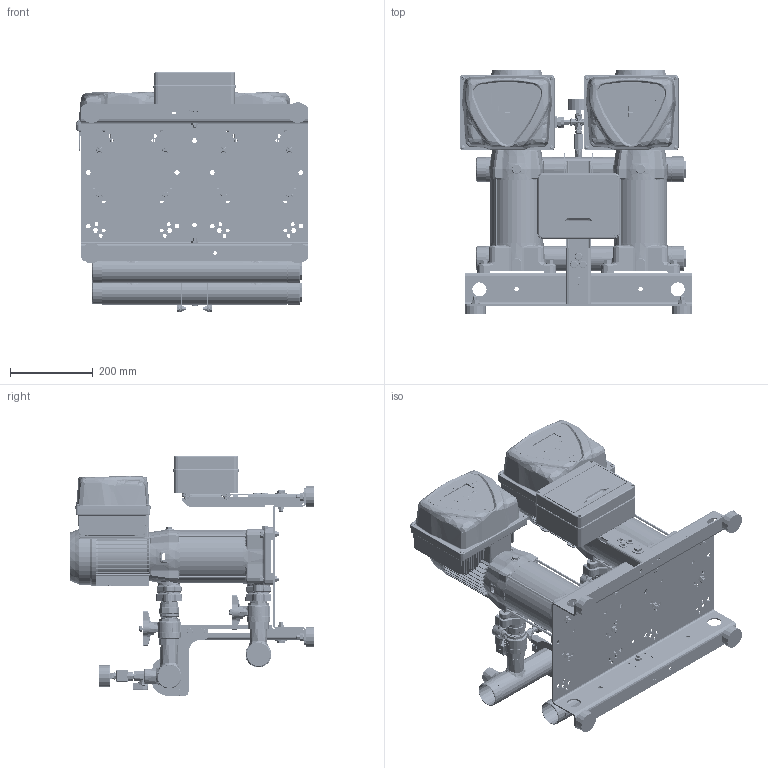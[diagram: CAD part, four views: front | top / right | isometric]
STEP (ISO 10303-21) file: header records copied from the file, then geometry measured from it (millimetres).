
FILE_DESCRIPTION((''),'2;1');
FILE_NAME('2GPE_CVM_A12_ESPM_REV4_ASM','2024-12-03T11:43:26',('Utente'),('"Ebara Pumps Europe S.p.A"'),'CREO PARAMETRIC BY PTC INC, 2022124','CREO PARAMETRIC BY PTC INC, 2022124','');
FILE_SCHEMA(('AUTOMOTIVE_DESIGN { 1 0 10303 214 1 1 1 1 }'));
Products named in the file (45): 62508_275562936; CALOTTA_F_A304_DN50_369800820; VAL_INT_MF_OTN_CIM301-14_DN32; VAL_INT_M-F_OTN_CIM301_DN32_ASM; EP_CVM_A-12_R; EP_CVM_A-12_R_ASM; ADATTATORE_E-SPD_MEC71; E-SPD_ADATTATORE_MEC71_ASM; BACK_E-SPD_PLUS_2200-4000; COVER_E-SPD_PLUS_2200-4000; COM_E-SPDM_MEC71_VERT_ASM; VAL-NR-MF-OTN-CIM32-DN32; VALV_NR_MF_CIM32_DN32_ASM; RONDEL-P_FE_ZN_UNI6592_M10; DADO_AUTOAGG_M10_ESAG; VITI_TE_ISO4017_M10_L40; 62513_275562944; VAL_INT_MF_OTN_CIM012_DN8; NIPPLO_OTG_8_380000861; CROCE_OTG_DN8_380000881; TRASD_16BAR_460500024; MAN_POS_D50_10BAR_361600003; BASE_2GP_I300-B300_DNRV; MONTANTE_H300_271472898; PIEDINO_CIL_369650010; DADI_NORM_ISO4032_FE_ZN_M10; RONDEL-P_ZN_UNI6593_M10X30X2-5; VITI_TE_ISO4017_M10_L45; TRAVERSO_MONT_L200_271472882; RONDEL-P_FE_ZN_UNI6593_M6X18X2; RONDEL-P_FE_ZN_UNI6592_M6; VITI_TE_ISO4017_M6_L20; DADI_NORM_ISO4032_FE_ZN_M6; DNRV_2P_I300-B300_H300-Q195X150_ASM; QUADRO_PROT_2P_M_ELENTEK; PG_PVC_D10-5_380000891; TAPPO-SALVAFIL_D31; 271473006; 271472998; 72578_271473004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
Assembly tree (134 placements, depth 3):
  2GPE_CVM_A12_ESPM_REV4_ASM
    62508_275562936
    CALOTTA_F_A304_DN50_369800820  x2
    VAL_INT_M-F_OTN_CIM301_DN32_ASM  x4
      VAL_INT_MF_OTN_CIM301-14_DN32
    EP_CVM_A-12_R_ASM  x2
      EP_CVM_A-12_R
    E-SPD_ADATTATORE_MEC71_ASM  x2
      ADATTATORE_E-SPD_MEC71
    COM_E-SPDM_MEC71_VERT_ASM  x2
      BACK_E-SPD_PLUS_2200-4000
      COVER_E-SPD_PLUS_2200-4000
    VALV_NR_MF_CIM32_DN32_ASM  x2
      VAL-NR-MF-OTN-CIM32-DN32
    RONDEL-P_FE_ZN_UNI6592_M10  x8
    DADO_AUTOAGG_M10_ESAG  x9
    VITI_TE_ISO4017_M10_L40  x8
    62513_275562944
    VAL_INT_MF_OTN_CIM012_DN8
    NIPPLO_OTG_8_380000861
    CROCE_OTG_DN8_380000881
    TRASD_16BAR_460500024  x2
    MAN_POS_D50_10BAR_361600003
    DNRV_2P_I300-B300_H300-Q195X150_ASM
      BASE_2GP_I300-B300_DNRV
      MONTANTE_H300_271472898
      PIEDINO_CIL_369650010  x4
      RONDEL-P_FE_ZN_UNI6592_M10  x4
      DADI_NORM_ISO4032_FE_ZN_M10  x4
      RONDEL-P_ZN_UNI6593_M10X30X2-5
      VITI_TE_ISO4017_M10_L45
      TRAVERSO_MONT_L200_271472882  x2
      RONDEL-P_FE_ZN_UNI6593_M6X18X2  x8
      RONDEL-P_FE_ZN_UNI6592_M6  x4
      VITI_TE_ISO4017_M6_L20  x4
      DADI_NORM_ISO4032_FE_ZN_M6  x4
      DADO_AUTOAGG_M10_ESAG
    QUADRO_PROT_2P_M_ELENTEK
    PG_PVC_D10-5_380000891  x3
    TAPPO-SALVAFIL_D31  x2
    271473006
    271472998  x2
    72578_271473004  x2
    RONDEL-P_ZN_UNI6593_M10X30X2-5
    VITI_TE_ISO4017_M10_L45
    RONDEL-P_FE_ZN_UNI6592_M8  x12
    VITI_TE_ISO4017_M8_L18  x8
    DADI_NORM_ISO4032_FE_ZN_M8  x4
    DADO_AUTOAGG_M8_ESAG  x4
Bounding box: 562.5 x 591.6 x 581.25 mm (x, y, z)
Volume: 4088242.3 mm3; surface area: 4510485.6 mm2
Topology: 296 solids, 1277 shells, 32658 faces, 85173 edges, 52542 vertices
Faces by surface type: plane 15767, cylinder 8005, bspline 2637, sphere 2073, cone 1521, extrusion 1426, torus 1229
Entity records: 735294 total; most frequent: CARTESIAN_POINT 288285, ORIENTED_EDGE 74528, DIRECTION 71821, EDGE_CURVE 38610, VERTEX_POINT 24222, AXIS2_PLACEMENT_3D 23963, VECTOR 23763, LINE 23133
